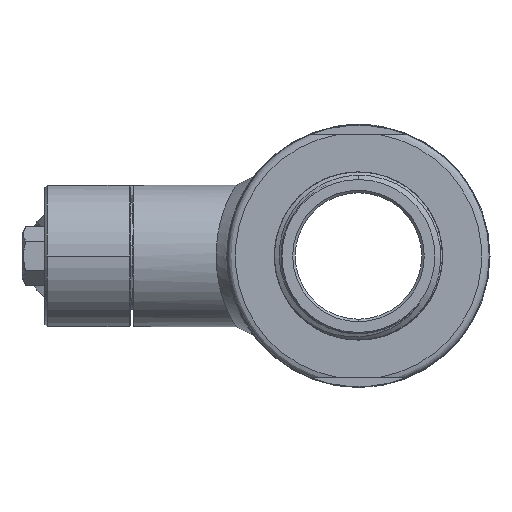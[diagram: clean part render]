
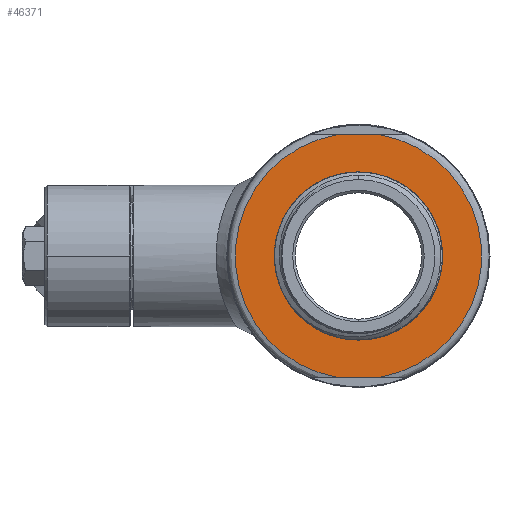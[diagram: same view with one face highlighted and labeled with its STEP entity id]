
A CAD part, left-side view. The second image highlights one B-rep face of the part: STEP entity #46371.
In plain terms, the highlighted planar face has unit normal (-1, 0, 0).
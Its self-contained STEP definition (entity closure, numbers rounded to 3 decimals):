
#1582=DIRECTION('',(0.,-1.,0.));
#1583=VECTOR('',#1582,8.227);
#1584=CARTESIAN_POINT('',(-34.,4.114,24.));
#1585=LINE('',#1584,#1583);
#1589=DIRECTION('',(0.,-1.,0.));
#1590=VECTOR('',#1589,8.227);
#1591=CARTESIAN_POINT('',(-34.,4.114,-24.));
#1592=LINE('',#1591,#1590);
#1596=CARTESIAN_POINT('',(-34.,0.,0.));
#1597=DIRECTION('',(-1.,0.,0.));
#1598=DIRECTION('',(0.,0.,-1.));
#1599=AXIS2_PLACEMENT_3D('',#1596,#1597,#1598);
#1604=CARTESIAN_POINT('',(-34.,0.,0.));
#1605=DIRECTION('',(-1.,0.,0.));
#1606=DIRECTION('',(0.,0.,1.));
#1607=AXIS2_PLACEMENT_3D('',#1604,#1605,#1606);
#1628=CARTESIAN_POINT('',(-34.,-4.114,-24.));
#1658=CARTESIAN_POINT('',(-34.,0.,0.));
#1659=DIRECTION('',(-1.,0.,0.));
#1660=DIRECTION('',(0.,-0.169,-0.986));
#1661=AXIS2_PLACEMENT_3D('',#1658,#1659,#1660);
#1666=CARTESIAN_POINT('',(-34.,-4.114,24.));
#1748=CARTESIAN_POINT('',(-34.,4.114,24.));
#1778=CARTESIAN_POINT('',(-34.,0.,0.));
#1779=DIRECTION('',(-1.,0.,0.));
#1780=DIRECTION('',(0.,0.169,0.986));
#1781=AXIS2_PLACEMENT_3D('',#1778,#1779,#1780);
#1786=CARTESIAN_POINT('',(-34.,4.114,-24.));
#45742=CARTESIAN_POINT('',(-34.,0.,-16.625));
#45743=CARTESIAN_POINT('',(-34.,0.,16.625));
#45744=VERTEX_POINT('',#45742);
#45745=VERTEX_POINT('',#45743);
#45764=VERTEX_POINT('',#1666);
#45767=VERTEX_POINT('',#1628);
#45772=VERTEX_POINT('',#1786);
#45775=VERTEX_POINT('',#1748);
#46351=CARTESIAN_POINT('',(-34.,0.,0.));
#46352=DIRECTION('',(-1.,0.,0.));
#46353=DIRECTION('',(0.,-1.,0.));
#46354=AXIS2_PLACEMENT_3D('',#46351,#46352,#46353);
#46355=PLANE('',#46354);
#46356=ORIENTED_EDGE('',*,*,#46339,.T.);
#46358=ORIENTED_EDGE('',*,*,#46357,.F.);
#46360=ORIENTED_EDGE('',*,*,#46359,.F.);
#46362=ORIENTED_EDGE('',*,*,#46361,.F.);
#46363=EDGE_LOOP('',(#46356,#46358,#46360,#46362));
#46364=FACE_OUTER_BOUND('',#46363,.F.);
#46366=ORIENTED_EDGE('',*,*,#46365,.T.);
#46368=ORIENTED_EDGE('',*,*,#46367,.T.);
#46369=EDGE_LOOP('',(#46366,#46368));
#46370=FACE_BOUND('',#46369,.F.);
#46371=ADVANCED_FACE('',(#46364,#46370),#46355,.T.);
#1600=CIRCLE('',#1599,16.625);
#1608=CIRCLE('',#1607,16.625);
#1662=CIRCLE('',#1661,24.35);
#1782=CIRCLE('',#1781,24.35);
#46339=EDGE_CURVE('',#45775,#45764,#1585,.T.);
#46357=EDGE_CURVE('',#45767,#45764,#1662,.T.);
#46359=EDGE_CURVE('',#45772,#45767,#1592,.T.);
#46361=EDGE_CURVE('',#45775,#45772,#1782,.T.);
#46365=EDGE_CURVE('',#45744,#45745,#1600,.T.);
#46367=EDGE_CURVE('',#45745,#45744,#1608,.T.);
